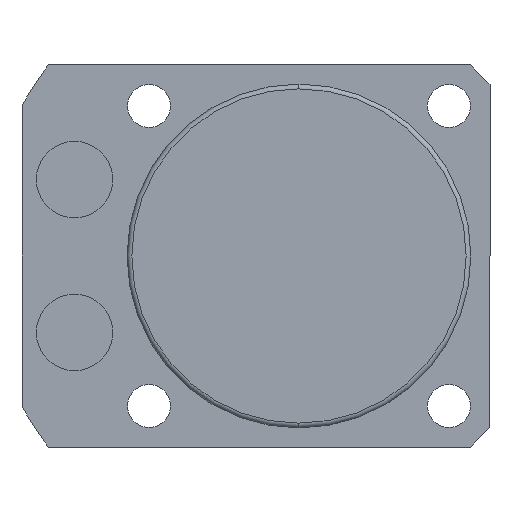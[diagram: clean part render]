
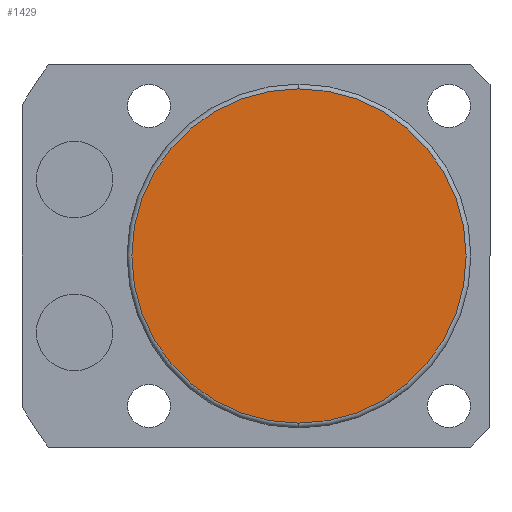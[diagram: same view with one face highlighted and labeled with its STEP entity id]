
A CAD part, front view. The second image highlights one B-rep face of the part: STEP entity #1429.
In plain terms, the highlighted planar face has unit normal (0, -1, 0).
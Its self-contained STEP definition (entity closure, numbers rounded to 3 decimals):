
#101 = AXIS2_PLACEMENT_3D ( 'NONE', #349, #1264, #353 ) ;
#248 = PLANE ( 'NONE',  #759 ) ;
#250 = CARTESIAN_POINT ( 'NONE',  ( 0., -35.5, 17.5 ) ) ;
#337 = VERTEX_POINT ( 'NONE', #250 ) ;
#349 = CARTESIAN_POINT ( 'NONE',  ( 0., -35.5, 0. ) ) ;
#353 = DIRECTION ( 'NONE',  ( 0., 0., -1. ) ) ;
#400 = AXIS2_PLACEMENT_3D ( 'NONE', #2245, #2236, #1117 ) ;
#415 = DIRECTION ( 'NONE',  ( 0., 0., -1. ) ) ;
#759 = AXIS2_PLACEMENT_3D ( 'NONE', #967, #1519, #415 ) ;
#889 = VERTEX_POINT ( 'NONE', #1983 ) ;
#967 = CARTESIAN_POINT ( 'NONE',  ( 0., -35.5, 0. ) ) ;
#1029 = CIRCLE ( 'NONE', #400, 17.5 ) ;
#1117 = DIRECTION ( 'NONE',  ( 0., 0., -1. ) ) ;
#1264 = DIRECTION ( 'NONE',  ( 0., -1., 0. ) ) ;
#1374 = CIRCLE ( 'NONE', #101, 17.5 ) ;
#1429 = ADVANCED_FACE ( 'NONE', ( #1998 ), #248, .T. ) ;
#1433 = ORIENTED_EDGE ( 'NONE', *, *, #2055, .T. ) ;
#1519 = DIRECTION ( 'NONE',  ( 0., -1., 0. ) ) ;
#1783 = ORIENTED_EDGE ( 'NONE', *, *, #2313, .T. ) ;
#1983 = CARTESIAN_POINT ( 'NONE',  ( 0., -35.5, -17.5 ) ) ;
#1998 = FACE_OUTER_BOUND ( 'NONE', #2104, .T. ) ;
#2055 = EDGE_CURVE ( 'NONE', #337, #889, #1029, .T. ) ;
#2104 = EDGE_LOOP ( 'NONE', ( #1783, #1433 ) ) ;
#2236 = DIRECTION ( 'NONE',  ( 0., -1., 0. ) ) ;
#2245 = CARTESIAN_POINT ( 'NONE',  ( 0., -35.5, 0. ) ) ;
#2313 = EDGE_CURVE ( 'NONE', #889, #337, #1374, .T. ) ;
